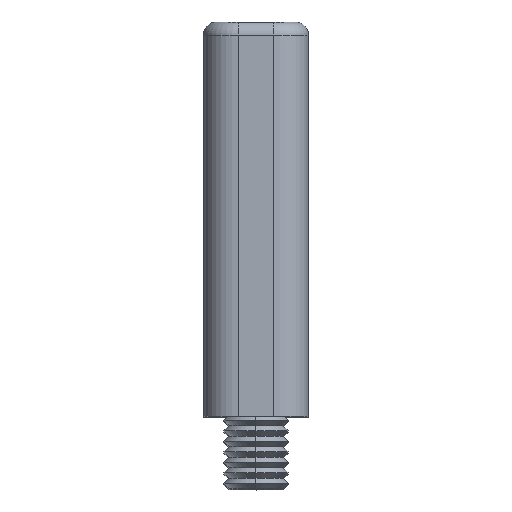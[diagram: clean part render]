
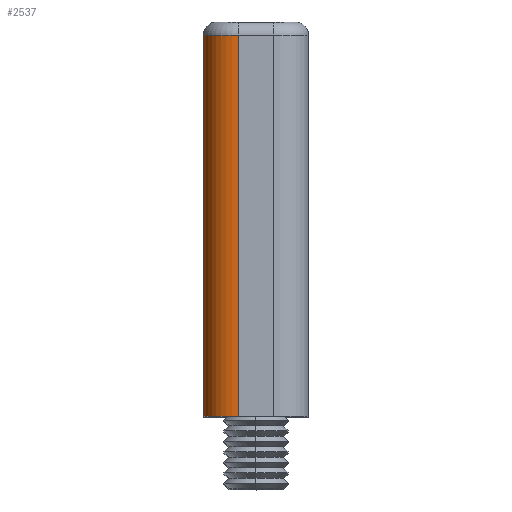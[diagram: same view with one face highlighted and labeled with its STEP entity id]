
A CAD part, top view. The second image highlights one B-rep face of the part: STEP entity #2537.
In plain terms, the highlighted cylindrical face has radius 2.667 mm (diameter 5.333 mm), a partial arc.
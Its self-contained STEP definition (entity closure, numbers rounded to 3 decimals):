
#517 = AXIS2_PLACEMENT_3D ( 'NONE', #3976, #3011, #4401 ) ;
#523 = CARTESIAN_POINT ( 'NONE',  ( -7.5, 29., -1.333 ) ) ;
#545 = DIRECTION ( 'NONE',  ( 0., 0., 1. ) ) ;
#591 = VECTOR ( 'NONE', #2601, 1000. ) ;
#883 = EDGE_CURVE ( 'NONE', #1631, #4802, #1753, .T. ) ;
#988 = DIRECTION ( 'NONE',  ( 0., -1., 0. ) ) ;
#1294 = CARTESIAN_POINT ( 'NONE',  ( -7.5, 0., -1.333 ) ) ;
#1466 = EDGE_CURVE ( 'NONE', #1823, #2289, #5511, .T. ) ;
#1631 = VERTEX_POINT ( 'NONE', #2075 ) ;
#1753 = CIRCLE ( 'NONE', #4602, 2.667 ) ;
#1823 = VERTEX_POINT ( 'NONE', #523 ) ;
#1875 = CARTESIAN_POINT ( 'NONE',  ( -4.833, 29., -1.333 ) ) ;
#2075 = CARTESIAN_POINT ( 'NONE',  ( -4.833, 0., -4. ) ) ;
#2147 = CARTESIAN_POINT ( 'NONE',  ( -7.5, 30., -1.333 ) ) ;
#2225 = AXIS2_PLACEMENT_3D ( 'NONE', #1875, #988, #545 ) ;
#2228 = LINE ( 'NONE', #4383, #591 ) ;
#2289 = VERTEX_POINT ( 'NONE', #2428 ) ;
#2428 = CARTESIAN_POINT ( 'NONE',  ( -4.833, 29., -4. ) ) ;
#2537 = ADVANCED_FACE ( 'NONE', ( #3250 ), #3620, .T. ) ;
#2540 = EDGE_CURVE ( 'NONE', #2289, #1631, #2228, .T. ) ;
#2601 = DIRECTION ( 'NONE',  ( 0., -1., 0. ) ) ;
#2875 = CARTESIAN_POINT ( 'NONE',  ( -4.833, 0., -1.333 ) ) ;
#3011 = DIRECTION ( 'NONE',  ( 0., -1., 0. ) ) ;
#3051 = ORIENTED_EDGE ( 'NONE', *, *, #883, .T. ) ;
#3172 = EDGE_LOOP ( 'NONE', ( #5184, #5208, #5264, #3051 ) ) ;
#3250 = FACE_OUTER_BOUND ( 'NONE', #3172, .T. ) ;
#3286 = DIRECTION ( 'NONE',  ( 0., 0., 1. ) ) ;
#3346 = DIRECTION ( 'NONE',  ( 0., 1., 0. ) ) ;
#3620 = CYLINDRICAL_SURFACE ( 'NONE', #517, 2.667 ) ;
#3976 = CARTESIAN_POINT ( 'NONE',  ( -4.833, 30., -1.333 ) ) ;
#4261 = EDGE_CURVE ( 'NONE', #1823, #4802, #5690, .T. ) ;
#4383 = CARTESIAN_POINT ( 'NONE',  ( -4.833, 30., -4. ) ) ;
#4401 = DIRECTION ( 'NONE',  ( 0., 0., -1. ) ) ;
#4602 = AXIS2_PLACEMENT_3D ( 'NONE', #2875, #3346, #3286 ) ;
#4802 = VERTEX_POINT ( 'NONE', #1294 ) ;
#5184 = ORIENTED_EDGE ( 'NONE', *, *, #4261, .F. ) ;
#5208 = ORIENTED_EDGE ( 'NONE', *, *, #1466, .T. ) ;
#5264 = ORIENTED_EDGE ( 'NONE', *, *, #2540, .T. ) ;
#5369 = DIRECTION ( 'NONE',  ( 0., -1., 0. ) ) ;
#5511 = CIRCLE ( 'NONE', #2225, 2.667 ) ;
#5690 = LINE ( 'NONE', #2147, #5901 ) ;
#5901 = VECTOR ( 'NONE', #5369, 1000. ) ;
